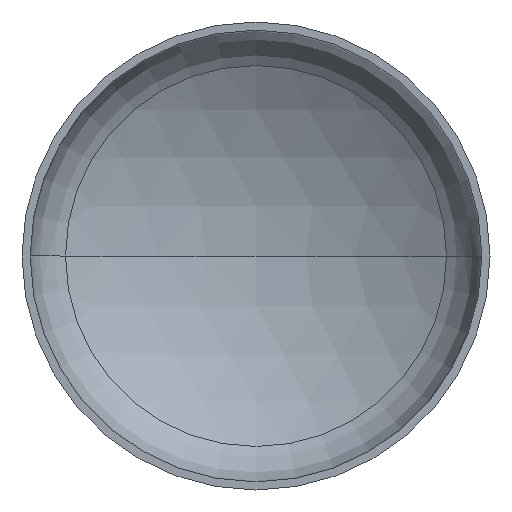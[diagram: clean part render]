
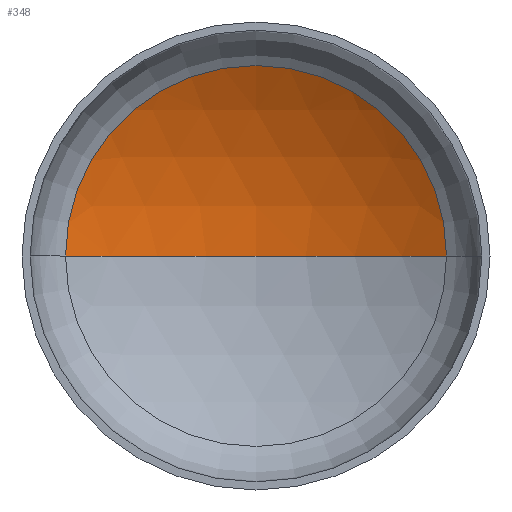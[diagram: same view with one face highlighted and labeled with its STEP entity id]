
A CAD part, front view. The second image highlights one B-rep face of the part: STEP entity #348.
In plain terms, the highlighted spherical face has radius 3200 mm.
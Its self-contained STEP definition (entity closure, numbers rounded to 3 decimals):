
#6 = AXIS2_PLACEMENT_3D ( 'NONE', #113, #311, #146 ) ;
#27 = AXIS2_PLACEMENT_3D ( 'NONE', #166, #360, #191 ) ;
#28 = AXIS2_PLACEMENT_3D ( 'NONE', #273, #106, #300 ) ;
#36 = VERTEX_POINT ( 'NONE', #136 ) ;
#62 = EDGE_CURVE ( 'NONE', #396, #36, #237, .T. ) ;
#65 = EDGE_CURVE ( 'NONE', #270, #396, #165, .T. ) ;
#82 = DIRECTION ( 'NONE',  ( 0., 0., -1. ) ) ;
#91 = EDGE_LOOP ( 'NONE', ( #189, #366, #110 ) ) ;
#106 = DIRECTION ( 'NONE',  ( 0., -1., 0. ) ) ;
#110 = ORIENTED_EDGE ( 'NONE', *, *, #62, .T. ) ;
#113 = CARTESIAN_POINT ( 'NONE',  ( 0., -2105.534, 0. ) ) ;
#116 = AXIS2_PLACEMENT_3D ( 'NONE', #228, #82, #282 ) ;
#136 = CARTESIAN_POINT ( 'NONE',  ( -1627.853, 649.479, 0. ) ) ;
#146 = DIRECTION ( 'NONE',  ( 1., 0., 0. ) ) ;
#165 = CIRCLE ( 'NONE', #27, 3200. ) ;
#166 = CARTESIAN_POINT ( 'NONE',  ( 0., -2105.534, 0. ) ) ;
#189 = ORIENTED_EDGE ( 'NONE', *, *, #329, .F. ) ;
#191 = DIRECTION ( 'NONE',  ( -1., 0., 0. ) ) ;
#222 = CARTESIAN_POINT ( 'NONE',  ( 0., 1094.466, 0. ) ) ;
#228 = CARTESIAN_POINT ( 'NONE',  ( 0., -2105.534, 0. ) ) ;
#237 = CIRCLE ( 'NONE', #28, 1627.853 ) ;
#261 = FACE_OUTER_BOUND ( 'NONE', #91, .T. ) ;
#267 = CIRCLE ( 'NONE', #6, 3200. ) ;
#270 = VERTEX_POINT ( 'NONE', #222 ) ;
#273 = CARTESIAN_POINT ( 'NONE',  ( 0., 649.479, 0. ) ) ;
#282 = DIRECTION ( 'NONE',  ( -1., 0., 0. ) ) ;
#300 = DIRECTION ( 'NONE',  ( 1., 0., 0. ) ) ;
#311 = DIRECTION ( 'NONE',  ( 0., 0., 1. ) ) ;
#329 = EDGE_CURVE ( 'NONE', #270, #36, #267, .T. ) ;
#348 = ADVANCED_FACE ( 'NONE', ( #261 ), #354, .F. ) ;
#354 = SPHERICAL_SURFACE ( 'NONE', #116, 3200. ) ;
#360 = DIRECTION ( 'NONE',  ( 0., 0., -1. ) ) ;
#366 = ORIENTED_EDGE ( 'NONE', *, *, #65, .T. ) ;
#372 = CARTESIAN_POINT ( 'NONE',  ( 1627.853, 649.479, 0. ) ) ;
#396 = VERTEX_POINT ( 'NONE', #372 ) ;
